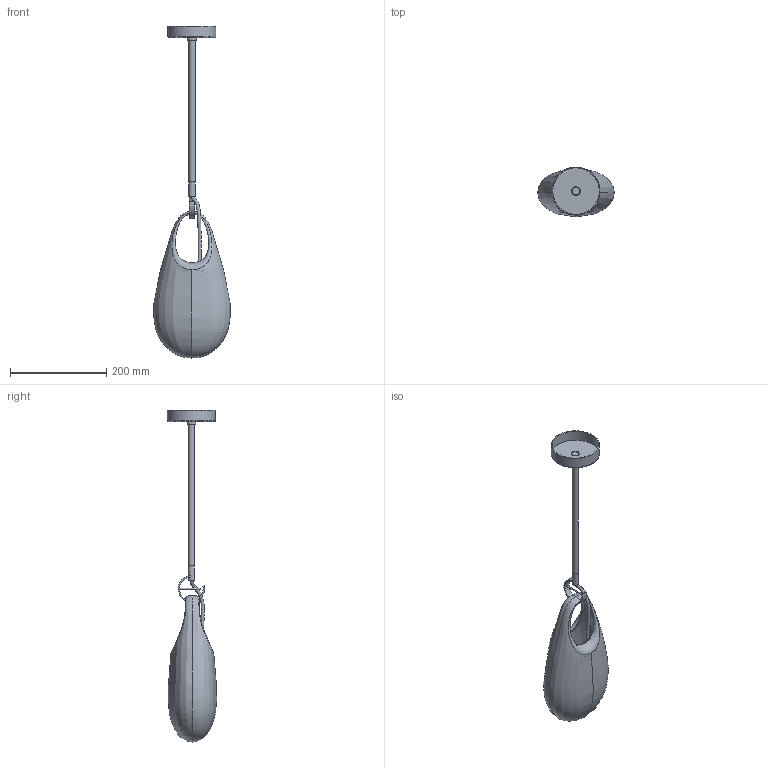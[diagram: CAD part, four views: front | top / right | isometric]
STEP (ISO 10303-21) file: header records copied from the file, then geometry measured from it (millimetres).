
FILE_DESCRIPTION(/* description */ (''),/* implementation_level */ '2;1');
FILE_NAME(/* name */ 'SkLO_Hold_12_Pendant_LT264_3D_EU',/* time_stamp */ '2024-10-21T18:08:21+02:00',/* author */ (''),/* organization */ (''),/* preprocessor_version */ 'ST-DEVELOPER v16.5',/* originating_system */ 'Rhino 7.34',/* authorisation */ '');
FILE_SCHEMA (('CONFIG_CONTROL_DESIGN'));
Length unit declared in the file: millimetre
Products named in the file (1): Document
Bounding box: 159.38 x 102.58 x 691.3 mm (x, y, z)
Volume: 389228.9 mm3; surface area: 253888.4 mm2
Topology: 13 solids, 14 shells, 481 faces, 1221 edges, 773 vertices
Faces by surface type: plane 253, bspline 119, cylinder 109
Full cylindrical faces by diameter (mm): 2.532 x5, 3 x11, 5 x1, 6 x1, 7.5 x1, 8 x3, 10.2 x1, 12 x1, 13 x2, 16.2 x1, 16.572 x1, 18 x1, 26 x1, 97 x1, 100 x1
Entity records: 55957 total; most frequent: CARTESIAN_POINT 47951, ORIENTED_EDGE 2377, EDGE_CURVE 1192, B_SPLINE_CURVE_WITH_KNOTS 842, VERTEX_POINT 771, EDGE_LOOP 528, ADVANCED_FACE 481, FACE_OUTER_BOUND 481
